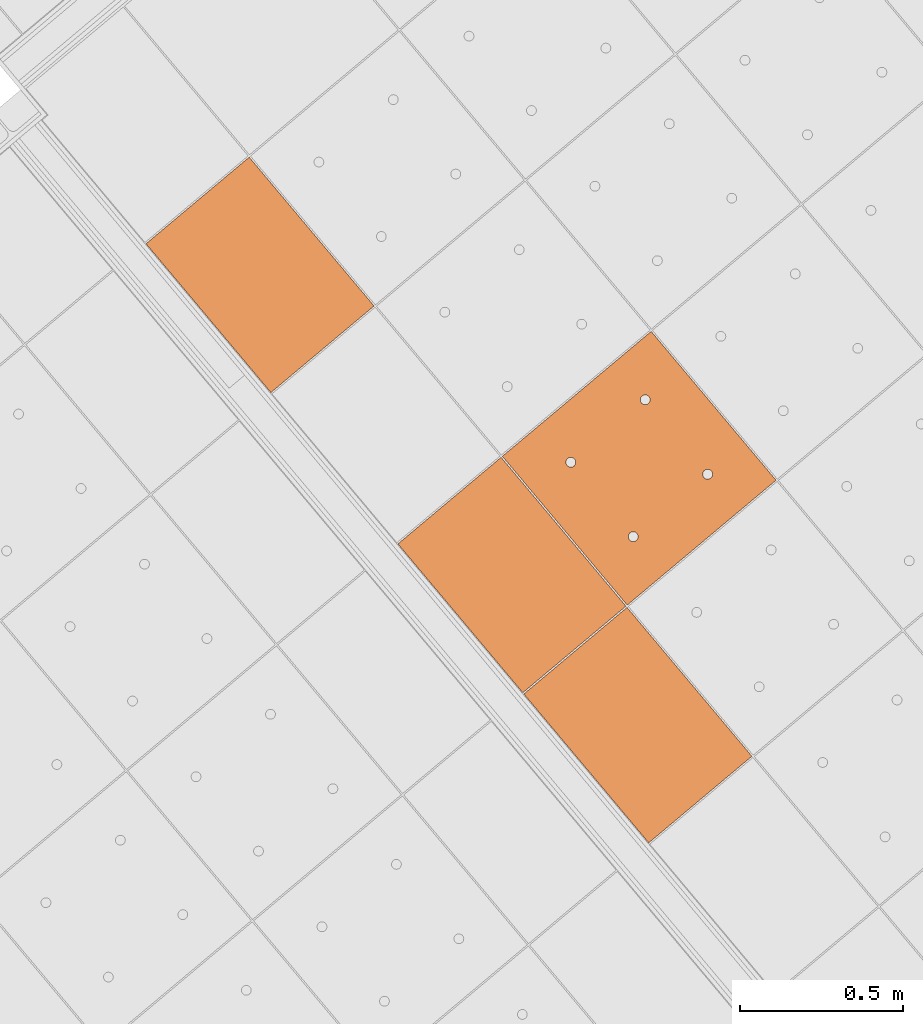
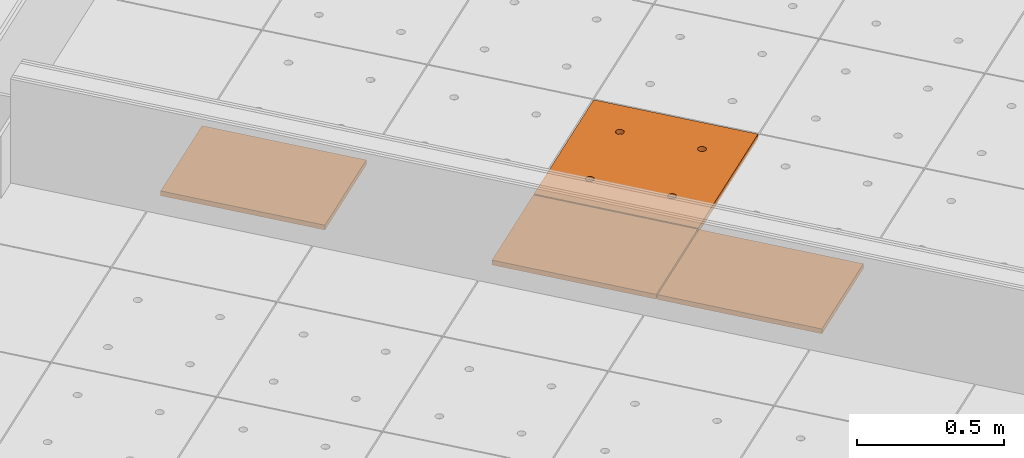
# One storey, part 147 of 338: 4 proxies, 1 element without a shape of its own.
"""IFC2X3 building model written with IfcOpenShell, lengths in millimetres."""

import ifcopenshell
import ifcopenshell.guid

model = None  # the IFC model being written
_history = None  # IfcOwnerHistory: only IFC2X3 demands one
_inside = {}  # id of a spatial element -> (the spatial element, [elements in it])
_under = {}  # id of a project, library or spatial element -> (it, [spatial elements below it])
_declared = {}  # id of a project -> (the project, [libraries it declares])
_typed = {}  # id of a type object -> (the type object, [elements of that type])
_made_of = {}  # id of a material, layer set ... -> (it, [elements and type objects made of it])


def new_model(schema):
    """Start an empty IFC model of exactly this schema.

    Asked for "IFC4X3", IfcOpenShell would pick the latest addendum, in which some entities
    have other attributes; the version numbers below select the first issue.
    IFC2X3 requires an IfcOwnerHistory on every rooted entity: one is made here for all.
    """
    global model, _history
    if schema == "IFC4X3":
        model = ifcopenshell.file(schema_version=(4, 3, 0, 0))
    else:
        model = ifcopenshell.file(schema=schema)
    _inside.clear()
    _under.clear()
    _declared.clear()
    _typed.clear()
    _made_of.clear()
    _history = None
    if model.schema == "IFC2X3":
        org = make("IfcOrganization", Name="unknown")
        user = make(
            "IfcPersonAndOrganization",
            ThePerson=make("IfcPerson", FamilyName="unknown"),
            TheOrganization=org,
        )
        app = make(
            "IfcApplication",
            ApplicationDeveloper=org,
            Version="unknown",
            ApplicationFullName="unknown",
            ApplicationIdentifier="unknown",
        )
        _history = make(
            "IfcOwnerHistory",
            OwningUser=user,
            OwningApplication=app,
            ChangeAction="ADDED",
            CreationDate=0,
        )
    return model


def make(cls, **values):
    """One entity of the class cls with the attributes given. An attribute that is None is left unset."""
    return model.create_entity(
        cls, **{name: value for name, value in values.items() if value is not None}
    )


def entity(cls, *values):
    """Any entity or typed value of the class cls, its attributes in the order of the schema. None: left unset."""
    e = model.create_entity(cls)
    for i, value in enumerate(values):
        if value is not None:
            e[i] = value
    return e


def rooted(cls, **values):
    """An entity with a GlobalId (a new one), such as an element, a storey or a relation."""
    return make(cls, GlobalId=ifcopenshell.guid.new(), OwnerHistory=_history, **values)


def si_unit(unit_type, name, prefix=None):
    """IfcSIUnit, for example si_unit("LENGTHUNIT", "METRE", prefix="MILLI")."""
    return make("IfcSIUnit", UnitType=unit_type, Prefix=prefix, Name=name)


def converted_unit(unit_type, name, factor, base, dimensions=None, offset=None):
    """IfcConversionBasedUnit, such as the inch: factor (a typed value) times the base unit."""
    return make(
        "IfcConversionBasedUnit"
        if offset is None
        else "IfcConversionBasedUnitWithOffset",
        ConversionOffset=offset,
        Dimensions=None
        if dimensions is None
        else entity("IfcDimensionalExponents", *dimensions),
        UnitType=unit_type,
        Name=name,
        ConversionFactor=make(
            "IfcMeasureWithUnit", ValueComponent=factor, UnitComponent=base
        ),
    )


def derived_unit(unit_type, elements):
    """IfcDerivedUnit: a product of units, each with its exponent."""
    return make(
        "IfcDerivedUnit",
        Elements=[
            make("IfcDerivedUnitElement", Unit=unit, Exponent=power)
            for unit, power in elements
        ],
        UnitType=unit_type,
    )


def money_unit(currency):
    """IfcMonetaryUnit."""
    return make("IfcMonetaryUnit", Currency=currency)


def assignment(units):
    """IfcUnitAssignment: the units of a project."""
    return None if units is None else make("IfcUnitAssignment", Units=units)


def point(xyz):
    """IfcCartesianPoint."""
    return None if xyz is None else make("IfcCartesianPoint", Coordinates=xyz)


def direction(xyz):
    """IfcDirection."""
    return None if xyz is None else make("IfcDirection", DirectionRatios=xyz)


def frame(location, z_axis=None, x_axis=None):
    """IfcAxis2Placement3D, a coordinate frame: its origin and axes. An axis left out is left unset."""
    return make(
        "IfcAxis2Placement3D",
        Location=point(location),
        Axis=direction(z_axis),
        RefDirection=direction(x_axis),
    )


def origin_with_axes():
    """The frame at (0, 0, 0) with the z axis (0, 0, 1) and the x axis (1, 0, 0) written out."""
    return frame((0.0, 0.0, 0.0), z_axis=(0.0, 0.0, 1.0), x_axis=(1.0, 0.0, 0.0))


def place(relative_to, where):
    """IfcLocalPlacement: puts the frame where relative to a parent placement (None: the world)."""
    return make(
        "IfcLocalPlacement", PlacementRelTo=relative_to, RelativePlacement=where
    )


def context(
    kind, dimensions, precision=None, world=None, true_north=None, identifier=None
):
    """IfcGeometricRepresentationContext, for example the 3D "Model" context."""
    return make(
        "IfcGeometricRepresentationContext",
        ContextIdentifier=identifier,
        ContextType=kind,
        CoordinateSpaceDimension=dimensions,
        Precision=precision,
        WorldCoordinateSystem=world,
        TrueNorth=true_north,
    )


def subcontext(parent, identifier, kind, view, scale=None):
    """IfcGeometricRepresentationSubContext, for example "Body" below "Model"."""
    return make(
        "IfcGeometricRepresentationSubContext",
        ContextIdentifier=identifier,
        ContextType=kind,
        ParentContext=parent,
        TargetScale=scale,
        TargetView=view,
    )


def project(units=None, contexts=None):
    """IfcProject with its units and contexts."""
    return rooted(
        "IfcProject",
        Name="project",
        RepresentationContexts=contexts,
        UnitsInContext=assignment(units),
    )


def spatial(cls, under=None, at=None, **own):
    """A site, building, storey or space (cls), placed at a placement, below another one or the project."""
    s = rooted(cls, ObjectPlacement=at, **own)
    if under is not None:
        _under.setdefault(under.id(), (under, []))[1].append(s)
    return s


def faces_of(points, faces, orient=None, outer=None):
    """IfcFace entities. A face is a list of loops; a loop is a list of indices into points, from 0.

    orient and outer hold one flag for each loop. By default every Orientation is true, the
    first loop of a face is its IfcFaceOuterBound and the others are IfcFaceBound.
    """
    made = []
    for i, loops in enumerate(faces):
        bounds = []
        for j, loop in enumerate(loops):
            is_outer = j == 0 if outer is None else outer[i][j]
            bounds.append(
                make(
                    "IfcFaceOuterBound" if is_outer else "IfcFaceBound",
                    Bound=make("IfcPolyLoop", Polygon=[points[k] for k in loop]),
                    Orientation=True if orient is None else orient[i][j],
                )
            )
        made.append(make("IfcFace", Bounds=bounds))
    return made


def faceted_brep(points, faces, orient=None, outer=None, voids=None):
    """IfcFacetedBrep: a solid bounded by flat faces; with voids (closed shells), ...WithVoids."""
    shared = [point(p) for p in points]
    hull = make("IfcClosedShell", CfsFaces=faces_of(shared, faces, orient, outer))
    if voids is None:
        return make("IfcFacetedBrep", Outer=hull)
    return make(
        "IfcFacetedBrepWithVoids",
        Outer=hull,
        Voids=[
            make(cls, CfsFaces=faces_of(shared, fs, o, b)) for cls, fs, o, b in voids
        ],
    )


def shape(context_of_items, identifier, shape_type, items):
    """IfcShapeRepresentation: the items that make up one representation, for example the "Body"."""
    return make(
        "IfcShapeRepresentation",
        ContextOfItems=context_of_items,
        RepresentationIdentifier=identifier,
        RepresentationType=shape_type,
        Items=items,
    )


def source(mapping_origin, context_of_items, identifier, shape_type, items):
    """IfcRepresentationMap: a shape defined once, which mapped items show again and again."""
    return make(
        "IfcRepresentationMap",
        MappingOrigin=mapping_origin,
        MappedRepresentation=shape(context_of_items, identifier, shape_type, items),
    )


def transform(
    local_origin,
    x_axis=None,
    y_axis=None,
    z_axis=None,
    scale=None,
    scale2=None,
    scale3=None,
    uniform=True,
):
    """IfcCartesianTransformationOperator3D, or its non-uniform kind. x_axis, y_axis, z_axis: its Axis1, 2, 3."""
    if uniform:
        return make(
            "IfcCartesianTransformationOperator3D",
            Axis1=direction(x_axis),
            Axis2=direction(y_axis),
            LocalOrigin=point(local_origin),
            Scale=scale,
            Axis3=direction(z_axis),
        )
    return make(
        "IfcCartesianTransformationOperator3DnonUniform",
        Axis1=direction(x_axis),
        Axis2=direction(y_axis),
        LocalOrigin=point(local_origin),
        Scale=scale,
        Axis3=direction(z_axis),
        Scale2=scale2,
        Scale3=scale3,
    )


def mapped(mapping_source, mapping_target):
    """IfcMappedItem: shows the shape of a source again, moved by a transform."""
    return make(
        "IfcMappedItem", MappingSource=mapping_source, MappingTarget=mapping_target
    )


def material(Name=None, Category=None):
    """IfcMaterial."""
    return make("IfcMaterial", Name=Name, Category=Category)


def made_of(thing, what):
    """Note that an element or type object is made of a material, layer set ...; save() writes the relation."""
    if what is not None:
        _made_of.setdefault(what.id(), (what, []))[1].append(thing)
    return thing


def type_object(cls, material=None, **own):
    """A type object (cls), such as IfcWallType, which elements share."""
    return made_of(rooted(cls, **own), material)


def type_shapes(of_type, sources):
    """Give a type object the sources (RepresentationMaps) that its elements show as mapped items."""
    of_type.RepresentationMaps = sources


def element(
    cls,
    number,
    at=None,
    inside=None,
    cuts=None,
    type_object=None,
    material=None,
    context=None,
    identifier="Body",
    shape_type=None,
    held_by="IfcProductDefinitionShape",
    body=None,
    shapes=None,
    **own,
):
    """One element of the class cls, such as IfcWall. Its Tag is "e" and its number.

    at: its placement. inside: the storey or other place that contains it. cuts: it is an
    opening in that element (IfcRelVoidsElement). A single representation is given by context,
    identifier, shape_type and body (its items); several are given by shapes. held_by: the class
    of the entity that holds the representations. save() writes the other relations.
    """
    e = rooted(cls, Tag="e%d" % number, ObjectPlacement=at, **own)
    if body is not None:
        shapes = [shape(context, identifier, shape_type, body)]
    if shapes is not None:
        e.Representation = make(held_by, Representations=shapes)
    if inside is not None:
        _inside.setdefault(inside.id(), (inside, []))[1].append(e)
    if cuts is not None:
        rooted(
            "IfcRelVoidsElement", RelatingBuildingElement=cuts, RelatedOpeningElement=e
        )
    if type_object is not None:
        _typed.setdefault(type_object.id(), (type_object, []))[1].append(e)
    return made_of(e, material)


def aggregate(whole, parts):
    """IfcRelAggregates: a whole, such as a stair, and the parts it consists of."""
    return rooted("IfcRelAggregates", RelatingObject=whole, RelatedObjects=parts)


def save(model, path):
    """Write the relations noted so far, then the file.

    IfcRelAggregates (storeys below a building ...), IfcRelContainedInSpatialStructure (elements
    in a storey), IfcRelDefinesByType, IfcRelAssociatesMaterial and IfcRelDeclares: one each for
    every whole, place, type object, material and project.
    """
    for whole, parts in _under.values():
        aggregate(whole, parts)
    for where, things in _inside.values():
        rooted(
            "IfcRelContainedInSpatialStructure",
            RelatedElements=things,
            RelatingStructure=where,
        )
    for kind, things in _typed.values():
        rooted("IfcRelDefinesByType", RelatedObjects=things, RelatingType=kind)
    for what, things in _made_of.values():
        rooted("IfcRelAssociatesMaterial", RelatedObjects=things, RelatingMaterial=what)
    for by, libraries in _declared.values():
        rooted("IfcRelDeclares", RelatingContext=by, RelatedDefinitions=libraries)
    model.write(path)


model = new_model("IFC2X3")

# Units and contexts
model_context = context("Model", 3, precision=0.01, world=origin_with_axes(), true_north=direction((0.0, 1.0)))
plan_context = context("Plan", 3, precision=0.01, world=origin_with_axes(), true_north=direction((0.0, 1.0)))
body_context = subcontext(model_context, "Body", "Model", "MODEL_VIEW")
ifc_project = project(units=[si_unit("LENGTHUNIT", "METRE", prefix="MILLI"), si_unit("AREAUNIT", "SQUARE_METRE"), si_unit("VOLUMEUNIT", "CUBIC_METRE"), converted_unit("PLANEANGLEUNIT", "DEGREE", entity("IfcPlaneAngleMeasure", 0.0174532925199), si_unit("PLANEANGLEUNIT", "RADIAN"), dimensions=[0, 0, 0, 0, 0, 0, 0]), money_unit("EUR"), converted_unit("TIMEUNIT", "Year", entity("IfcTimeMeasure", 31556926.0), si_unit("TIMEUNIT", "SECOND"), dimensions=[0, 0, 1, 0, 0, 0, 0]), si_unit("MASSUNIT", "GRAM", prefix="KILO"), si_unit("THERMODYNAMICTEMPERATUREUNIT", "DEGREE_CELSIUS"), si_unit("LUMINOUSINTENSITYUNIT", "LUMEN"), si_unit("ENERGYUNIT", "JOULE", prefix="MEGA"), derived_unit("THERMALCONDUCTANCEUNIT", [(si_unit("POWERUNIT", "WATT"), 1), (si_unit("LENGTHUNIT", "METRE"), -1), (si_unit("THERMODYNAMICTEMPERATUREUNIT", "KELVIN"), -1)]), derived_unit("SPECIFICHEATCAPACITYUNIT", [(si_unit("ENERGYUNIT", "JOULE"), 1), (si_unit("MASSUNIT", "GRAM", prefix="KILO"), -1), (si_unit("THERMODYNAMICTEMPERATUREUNIT", "KELVIN"), -1)]), derived_unit("MASSDENSITYUNIT", [(si_unit("MASSUNIT", "GRAM", prefix="KILO"), 1), (si_unit("VOLUMEUNIT", "CUBIC_METRE"), -1)])], contexts=[model_context, plan_context])

# Site, building, storey
site_placement = place(None, origin_with_axes())
site = spatial("IfcSite", under=ifc_project, at=site_placement, Name="Fortuinstraat Woensdrecht", CompositionType="ELEMENT")
building_placement = place(site_placement, origin_with_axes())
building = spatial("IfcBuilding", under=site, at=building_placement, Name="IKC Fortuna", CompositionType="ELEMENT")
storey_placement = place(building_placement, origin_with_axes())
storey = spatial("IfcBuildingStorey", under=building, at=storey_placement, Name="00 begane grond", CompositionType="ELEMENT", Elevation=0.0)

# Covering, proxies
covering_type = type_object("IfcCoveringType", Name="Curtain Wall Type", PredefinedType="CEILING")
covering_placement = place(storey_placement, frame((19785.7448517, -11392.5753808, 4660.0), z_axis=(0.0, 0.0, 1.0), x_axis=(1.0, 0.0, 0.0)))
covering = element("IfcCovering", 1, at=covering_placement, inside=storey, type_object=covering_type, Name="45_Plafondafwerking_P01", PredefinedType="CEILING")
ifc_material = material(Name="Gipsplaat")
building_element_proxy_type_1 = type_object("IfcBuildingElementProxyType", Name="Main Panel 600 x 600 x 20", PredefinedType="NOTDEFINED")
shared_shape_1 = source(origin_with_axes(), body_context, "Body", "Brep", [
    faceted_brep([(2.49999999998, 2.49999999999, -10.0), (300.0, 2.49999999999, -10.0), (300.0, 2.49999999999, 10.0), (2.49999999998, 2.49999999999, 10.0), (2.49999999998, 300.0, -10.0), (2.49999999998, 597.5, -10.0), (300.0, 597.5, -10.0), (597.5, 597.5, -10.0), (597.5, 300.0, -10.0), (597.5, 2.49999999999, -10.0), (166.25, 450.06232995, -10.0), (165.79423259, 452.64711538, -10.0), (164.896546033, 455.11348892, -10.0), (163.58421608, 457.38651108, -10.0), (161.897117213, 459.39711721, -10.0), (159.886511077, 461.08421608, -10.0), (157.613488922, 462.39654603, -10.0), (155.147115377, 463.29423259, -10.0), (152.562329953, 463.75, -10.0), (149.937670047, 463.75, -10.0), (147.352884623, 463.29423259, -10.0), (144.886511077, 462.39654603, -10.0), (142.613488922, 461.08421608, -10.0), (140.602882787, 459.39711721, -10.0), (138.91578392, 457.38651108, -10.0), (137.603453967, 455.11348892, -10.0), (136.705767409, 452.64711538, -10.0), (136.25, 450.06232995, -10.0), (136.25, 448.75, -10.0), (136.25, 447.43767005, -10.0), (136.705767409, 444.85288462, -10.0), (137.603453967, 442.38651108, -10.0), (138.91578392, 440.11348892, -10.0), (140.602882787, 438.10288279, -10.0), (142.613488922, 436.41578392, -10.0), (144.886511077, 435.10345397, -10.0), (147.352884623, 434.20576741, -10.0), (149.937670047, 433.75, -10.0), (152.562329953, 433.75, -10.0), (155.147115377, 434.20576741, -10.0), (157.613488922, 435.10345397, -10.0), (159.886511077, 436.41578392, -10.0), (161.897117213, 438.10288279, -10.0), (163.58421608, 440.11348892, -10.0), (164.896546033, 442.38651108, -10.0), (165.79423259, 444.85288462, -10.0), (166.25, 447.43767005, -10.0), (463.75, 450.06232995, -10.0), (463.29423259, 452.64711538, -10.0), (462.396546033, 455.11348892, -10.0), (461.08421608, 457.38651108, -10.0), (459.397117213, 459.39711721, -10.0), (457.386511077, 461.08421608, -10.0), (455.113488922, 462.39654603, -10.0), (452.647115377, 463.29423259, -10.0), (450.062329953, 463.75, -10.0), (447.437670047, 463.75, -10.0), (444.852884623, 463.29423259, -10.0), (442.386511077, 462.39654603, -10.0), (440.113488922, 461.08421608, -10.0), (438.102882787, 459.39711721, -10.0), (436.41578392, 457.38651108, -10.0), (435.103453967, 455.11348892, -10.0), (434.205767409, 452.64711538, -10.0), (433.75, 450.06232995, -10.0), (433.75, 448.75, -10.0), (433.75, 447.43767005, -10.0), (434.205767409, 444.85288462, -10.0), (435.103453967, 442.38651108, -10.0), (436.41578392, 440.11348892, -10.0), (438.102882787, 438.10288279, -10.0), (440.113488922, 436.41578392, -10.0), (442.386511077, 435.10345397, -10.0), (444.852884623, 434.20576741, -10.0), (447.437670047, 433.75, -10.0), (450.062329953, 433.75, -10.0), (452.647115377, 434.20576741, -10.0), (455.113488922, 435.10345397, -10.0), (457.386511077, 436.41578392, -10.0), (459.397117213, 438.10288279, -10.0), (461.08421608, 440.11348892, -10.0), (462.396546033, 442.38651108, -10.0), (463.29423259, 444.85288462, -10.0), (463.75, 447.43767005, -10.0), (463.75, 152.56232995, -10.0), (463.29423259, 155.14711538, -10.0), (462.396546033, 157.61348892, -10.0), (461.08421608, 159.88651108, -10.0), (459.397117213, 161.89711721, -10.0), (457.386511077, 163.58421608, -10.0), (455.113488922, 164.89654603, -10.0), (452.647115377, 165.79423259, -10.0), (450.062329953, 166.25, -10.0), (447.437670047, 166.25, -10.0), (444.852884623, 165.79423259, -10.0), (442.386511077, 164.89654603, -10.0), (440.113488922, 163.58421608, -10.0), (438.102882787, 161.89711721, -10.0), (436.41578392, 159.88651108, -10.0), (435.103453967, 157.61348892, -10.0), (434.205767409, 155.14711538, -10.0), (433.75, 152.56232995, -10.0), (433.75, 151.25, -10.0), (433.75, 149.93767005, -10.0), (434.205767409, 147.35288462, -10.0), (435.103453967, 144.88651108, -10.0), (436.41578392, 142.61348892, -10.0), (438.102882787, 140.60288279, -10.0), (440.113488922, 138.91578392, -10.0), (442.386511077, 137.60345397, -10.0), (444.852884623, 136.70576741, -10.0), (447.437670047, 136.25, -10.0), (450.062329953, 136.25, -10.0), (452.647115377, 136.70576741, -10.0), (455.113488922, 137.60345397, -10.0), (457.386511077, 138.91578392, -10.0), (459.397117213, 140.60288279, -10.0), (461.08421608, 142.61348892, -10.0), (462.396546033, 144.88651108, -10.0), (463.29423259, 147.35288462, -10.0), (463.75, 149.93767005, -10.0), (166.25, 152.56232995, -10.0), (165.79423259, 155.14711538, -10.0), (164.896546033, 157.61348892, -10.0), (163.58421608, 159.88651108, -10.0), (161.897117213, 161.89711721, -10.0), (159.886511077, 163.58421608, -10.0), (157.613488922, 164.89654603, -10.0), (155.147115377, 165.79423259, -10.0), (152.562329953, 166.25, -10.0), (149.937670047, 166.25, -10.0), (147.352884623, 165.79423259, -10.0), (144.886511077, 164.89654603, -10.0), (142.613488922, 163.58421608, -10.0), (140.602882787, 161.89711721, -10.0), (138.91578392, 159.88651108, -10.0), (137.603453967, 157.61348892, -10.0), (136.705767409, 155.14711538, -10.0), (136.25, 152.56232995, -10.0), (136.25, 151.25, -10.0), (136.25, 149.93767005, -10.0), (136.705767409, 147.35288462, -10.0), (137.603453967, 144.88651108, -10.0), (138.91578392, 142.61348892, -10.0), (140.602882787, 140.60288279, -10.0), (142.613488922, 138.91578392, -10.0), (144.886511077, 137.60345397, -10.0), (147.352884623, 136.70576741, -10.0), (149.937670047, 136.25, -10.0), (152.562329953, 136.25, -10.0), (155.147115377, 136.70576741, -10.0), (157.613488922, 137.60345397, -10.0), (159.886511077, 138.91578392, -10.0), (161.897117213, 140.60288279, -10.0), (163.58421608, 142.61348892, -10.0), (164.896546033, 144.88651108, -10.0), (165.79423259, 147.35288462, -10.0), (166.25, 149.93767005, -10.0), (597.5, 2.49999999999, 10.0), (597.5, 300.0, 10.0), (597.5, 597.5, 10.0), (300.0, 597.5, 10.0), (2.49999999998, 597.5, 10.0), (2.49999999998, 300.0, 10.0), (166.25, 450.06232995, 10.0), (166.25, 447.43767005, 10.0), (165.79423259, 444.85288462, 10.0), (164.896546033, 442.38651108, 10.0), (163.58421608, 440.11348892, 10.0), (161.897117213, 438.10288279, 10.0), (159.886511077, 436.41578392, 10.0), (157.613488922, 435.10345397, 10.0), (155.147115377, 434.20576741, 10.0), (152.562329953, 433.75, 10.0), (149.937670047, 433.75, 10.0), (147.352884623, 434.20576741, 10.0), (144.886511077, 435.10345397, 10.0), (142.613488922, 436.41578392, 10.0), (140.602882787, 438.10288279, 10.0), (138.91578392, 440.11348892, 10.0), (137.603453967, 442.38651108, 10.0), (136.705767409, 444.85288462, 10.0), (136.25, 447.43767005, 10.0), (136.25, 448.75, 10.0), (136.25, 450.06232995, 10.0), (136.705767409, 452.64711538, 10.0), (137.603453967, 455.11348892, 10.0), (138.91578392, 457.38651108, 10.0), (140.602882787, 459.39711721, 10.0), (142.613488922, 461.08421608, 10.0), (144.886511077, 462.39654603, 10.0), (147.352884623, 463.29423259, 10.0), (149.937670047, 463.75, 10.0), (152.562329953, 463.75, 10.0), (155.147115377, 463.29423259, 10.0), (157.613488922, 462.39654603, 10.0), (159.886511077, 461.08421608, 10.0), (161.897117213, 459.39711721, 10.0), (163.58421608, 457.38651108, 10.0), (164.896546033, 455.11348892, 10.0), (165.79423259, 452.64711538, 10.0), (463.75, 450.06232995, 10.0), (463.75, 447.43767005, 10.0), (463.29423259, 444.85288462, 10.0), (462.396546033, 442.38651108, 10.0), (461.08421608, 440.11348892, 10.0), (459.397117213, 438.10288279, 10.0), (457.386511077, 436.41578392, 10.0), (455.113488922, 435.10345397, 10.0), (452.647115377, 434.20576741, 10.0), (450.062329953, 433.75, 10.0), (447.437670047, 433.75, 10.0), (444.852884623, 434.20576741, 10.0), (442.386511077, 435.10345397, 10.0), (440.113488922, 436.41578392, 10.0), (438.102882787, 438.10288279, 10.0), (436.41578392, 440.11348892, 10.0), (435.103453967, 442.38651108, 10.0), (434.205767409, 444.85288462, 10.0), (433.75, 447.43767005, 10.0), (433.75, 448.75, 10.0), (433.75, 450.06232995, 10.0), (434.205767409, 452.64711538, 10.0), (435.103453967, 455.11348892, 10.0), (436.41578392, 457.38651108, 10.0), (438.102882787, 459.39711721, 10.0), (440.113488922, 461.08421608, 10.0), (442.386511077, 462.39654603, 10.0), (444.852884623, 463.29423259, 10.0), (447.437670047, 463.75, 10.0), (450.062329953, 463.75, 10.0), (452.647115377, 463.29423259, 10.0), (455.113488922, 462.39654603, 10.0), (457.386511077, 461.08421608, 10.0), (459.397117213, 459.39711721, 10.0), (461.08421608, 457.38651108, 10.0), (462.396546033, 455.11348892, 10.0), (463.29423259, 452.64711538, 10.0), (463.75, 152.56232995, 10.0), (463.75, 149.93767005, 10.0), (463.29423259, 147.35288462, 10.0), (462.396546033, 144.88651108, 10.0), (461.08421608, 142.61348892, 10.0), (459.397117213, 140.60288279, 10.0), (457.386511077, 138.91578392, 10.0), (455.113488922, 137.60345397, 10.0), (452.647115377, 136.70576741, 10.0), (450.062329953, 136.25, 10.0), (447.437670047, 136.25, 10.0), (444.852884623, 136.70576741, 10.0), (442.386511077, 137.60345397, 10.0), (440.113488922, 138.91578392, 10.0), (438.102882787, 140.60288279, 10.0), (436.41578392, 142.61348892, 10.0), (435.103453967, 144.88651108, 10.0), (434.205767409, 147.35288462, 10.0), (433.75, 149.93767005, 10.0), (433.75, 151.25, 10.0), (433.75, 152.56232995, 10.0), (434.205767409, 155.14711538, 10.0), (435.103453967, 157.61348892, 10.0), (436.41578392, 159.88651108, 10.0), (438.102882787, 161.89711721, 10.0), (440.113488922, 163.58421608, 10.0), (442.386511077, 164.89654603, 10.0), (444.852884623, 165.79423259, 10.0), (447.437670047, 166.25, 10.0), (450.062329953, 166.25, 10.0), (452.647115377, 165.79423259, 10.0), (455.113488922, 164.89654603, 10.0), (457.386511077, 163.58421608, 10.0), (459.397117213, 161.89711721, 10.0), (461.08421608, 159.88651108, 10.0), (462.396546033, 157.61348892, 10.0), (463.29423259, 155.14711538, 10.0), (166.25, 152.56232995, 10.0), (166.25, 149.93767005, 10.0), (165.79423259, 147.35288462, 10.0), (164.896546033, 144.88651108, 10.0), (163.58421608, 142.61348892, 10.0), (161.897117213, 140.60288279, 10.0), (159.886511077, 138.91578392, 10.0), (157.613488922, 137.60345397, 10.0), (155.147115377, 136.70576741, 10.0), (152.562329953, 136.25, 10.0), (149.937670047, 136.25, 10.0), (147.352884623, 136.70576741, 10.0), (144.886511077, 137.60345397, 10.0), (142.613488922, 138.91578392, 10.0), (140.602882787, 140.60288279, 10.0), (138.91578392, 142.61348892, 10.0), (137.603453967, 144.88651108, 10.0), (136.705767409, 147.35288462, 10.0), (136.25, 149.93767005, 10.0), (136.25, 151.25, 10.0), (136.25, 152.56232995, 10.0), (136.705767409, 155.14711538, 10.0), (137.603453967, 157.61348892, 10.0), (138.91578392, 159.88651108, 10.0), (140.602882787, 161.89711721, 10.0), (142.613488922, 163.58421608, 10.0), (144.886511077, 164.89654603, 10.0), (147.352884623, 165.79423259, 10.0), (149.937670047, 166.25, 10.0), (152.562329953, 166.25, 10.0), (155.147115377, 165.79423259, 10.0), (157.613488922, 164.89654603, 10.0), (159.886511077, 163.58421608, 10.0), (161.897117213, 161.89711721, 10.0), (163.58421608, 159.88651108, 10.0), (164.896546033, 157.61348892, 10.0), (165.79423259, 155.14711538, 10.0)], [[[0, 1, 2, 3]], [[0, 4, 5, 6, 7, 8, 9, 1], [10, 11, 12, 13, 14, 15, 16, 17, 18, 19, 20, 21, 22, 23, 24, 25, 26, 27, 28, 29, 30, 31, 32, 33, 34, 35, 36, 37, 38, 39, 40, 41, 42, 43, 44, 45, 46], [47, 48, 49, 50, 51, 52, 53, 54, 55, 56, 57, 58, 59, 60, 61, 62, 63, 64, 65, 66, 67, 68, 69, 70, 71, 72, 73, 74, 75, 76, 77, 78, 79, 80, 81, 82, 83], [84, 85, 86, 87, 88, 89, 90, 91, 92, 93, 94, 95, 96, 97, 98, 99, 100, 101, 102, 103, 104, 105, 106, 107, 108, 109, 110, 111, 112, 113, 114, 115, 116, 117, 118, 119, 120], [121, 122, 123, 124, 125, 126, 127, 128, 129, 130, 131, 132, 133, 134, 135, 136, 137, 138, 139, 140, 141, 142, 143, 144, 145, 146, 147, 148, 149, 150, 151, 152, 153, 154, 155, 156, 157]], [[1, 9, 158, 2]], [[3, 2, 158, 159, 160, 161, 162, 163], [164, 165, 166, 167, 168, 169, 170, 171, 172, 173, 174, 175, 176, 177, 178, 179, 180, 181, 182, 183, 184, 185, 186, 187, 188, 189, 190, 191, 192, 193, 194, 195, 196, 197, 198, 199, 200], [201, 202, 203, 204, 205, 206, 207, 208, 209, 210, 211, 212, 213, 214, 215, 216, 217, 218, 219, 220, 221, 222, 223, 224, 225, 226, 227, 228, 229, 230, 231, 232, 233, 234, 235, 236, 237], [238, 239, 240, 241, 242, 243, 244, 245, 246, 247, 248, 249, 250, 251, 252, 253, 254, 255, 256, 257, 258, 259, 260, 261, 262, 263, 264, 265, 266, 267, 268, 269, 270, 271, 272, 273, 274], [275, 276, 277, 278, 279, 280, 281, 282, 283, 284, 285, 286, 287, 288, 289, 290, 291, 292, 293, 294, 295, 296, 297, 298, 299, 300, 301, 302, 303, 304, 305, 306, 307, 308, 309, 310, 311]], [[4, 0, 3, 163]], [[5, 4, 163, 162]], [[6, 5, 162, 161]], [[7, 6, 161, 160]], [[8, 7, 160, 159]], [[9, 8, 159, 158]], [[11, 10, 164, 200]], [[12, 11, 200, 199]], [[13, 12, 199, 198]], [[14, 13, 198, 197]], [[15, 14, 197, 196]], [[16, 15, 196, 195]], [[17, 16, 195, 194]], [[18, 17, 194, 193]], [[19, 18, 193, 192]], [[20, 19, 192, 191]], [[21, 20, 191, 190]], [[22, 21, 190, 189]], [[23, 22, 189, 188]], [[24, 23, 188, 187]], [[25, 24, 187, 186]], [[26, 25, 186, 185]], [[27, 26, 185, 184]], [[28, 27, 184, 183]], [[29, 28, 183, 182]], [[30, 29, 182, 181]], [[31, 30, 181, 180]], [[32, 31, 180, 179]], [[33, 32, 179, 178]], [[34, 33, 178, 177]], [[35, 34, 177, 176]], [[36, 35, 176, 175]], [[37, 36, 175, 174]], [[38, 37, 174, 173]], [[39, 38, 173, 172]], [[40, 39, 172, 171]], [[41, 40, 171, 170]], [[42, 41, 170, 169]], [[43, 42, 169, 168]], [[44, 43, 168, 167]], [[45, 44, 167, 166]], [[46, 45, 166, 165]], [[10, 46, 165, 164]], [[48, 47, 201, 237]], [[49, 48, 237, 236]], [[50, 49, 236, 235]], [[51, 50, 235, 234]], [[52, 51, 234, 233]], [[53, 52, 233, 232]], [[54, 53, 232, 231]], [[55, 54, 231, 230]], [[56, 55, 230, 229]], [[57, 56, 229, 228]], [[58, 57, 228, 227]], [[59, 58, 227, 226]], [[60, 59, 226, 225]], [[61, 60, 225, 224]], [[62, 61, 224, 223]], [[63, 62, 223, 222]], [[64, 63, 222, 221]], [[65, 64, 221, 220]], [[66, 65, 220, 219]], [[67, 66, 219, 218]], [[68, 67, 218, 217]], [[69, 68, 217, 216]], [[70, 69, 216, 215]], [[71, 70, 215, 214]], [[72, 71, 214, 213]], [[73, 72, 213, 212]], [[74, 73, 212, 211]], [[75, 74, 211, 210]], [[76, 75, 210, 209]], [[77, 76, 209, 208]], [[78, 77, 208, 207]], [[79, 78, 207, 206]], [[80, 79, 206, 205]], [[81, 80, 205, 204]], [[82, 81, 204, 203]], [[83, 82, 203, 202]], [[47, 83, 202, 201]], [[85, 84, 238, 274]], [[86, 85, 274, 273]], [[87, 86, 273, 272]], [[88, 87, 272, 271]], [[89, 88, 271, 270]], [[90, 89, 270, 269]], [[91, 90, 269, 268]], [[92, 91, 268, 267]], [[93, 92, 267, 266]], [[94, 93, 266, 265]], [[95, 94, 265, 264]], [[96, 95, 264, 263]], [[97, 96, 263, 262]], [[98, 97, 262, 261]], [[99, 98, 261, 260]], [[100, 99, 260, 259]], [[101, 100, 259, 258]], [[102, 101, 258, 257]], [[103, 102, 257, 256]], [[104, 103, 256, 255]], [[105, 104, 255, 254]], [[106, 105, 254, 253]], [[107, 106, 253, 252]], [[108, 107, 252, 251]], [[109, 108, 251, 250]], [[110, 109, 250, 249]], [[111, 110, 249, 248]], [[112, 111, 248, 247]], [[113, 112, 247, 246]], [[114, 113, 246, 245]], [[115, 114, 245, 244]], [[116, 115, 244, 243]], [[117, 116, 243, 242]], [[118, 117, 242, 241]], [[119, 118, 241, 240]], [[120, 119, 240, 239]], [[84, 120, 239, 238]], [[122, 121, 275, 311]], [[123, 122, 311, 310]], [[124, 123, 310, 309]], [[125, 124, 309, 308]], [[126, 125, 308, 307]], [[127, 126, 307, 306]], [[128, 127, 306, 305]], [[129, 128, 305, 304]], [[130, 129, 304, 303]], [[131, 130, 303, 302]], [[132, 131, 302, 301]], [[133, 132, 301, 300]], [[134, 133, 300, 299]], [[135, 134, 299, 298]], [[136, 135, 298, 297]], [[137, 136, 297, 296]], [[138, 137, 296, 295]], [[139, 138, 295, 294]], [[140, 139, 294, 293]], [[141, 140, 293, 292]], [[142, 141, 292, 291]], [[143, 142, 291, 290]], [[144, 143, 290, 289]], [[145, 144, 289, 288]], [[146, 145, 288, 287]], [[147, 146, 287, 286]], [[148, 147, 286, 285]], [[149, 148, 285, 284]], [[150, 149, 284, 283]], [[151, 150, 283, 282]], [[152, 151, 282, 281]], [[153, 152, 281, 280]], [[154, 153, 280, 279]], [[155, 154, 279, 278]], [[156, 155, 278, 277]], [[157, 156, 277, 276]], [[121, 157, 276, 275]]]),
])
type_shapes(building_element_proxy_type_1, [shared_shape_1])
proxy_1_placement = place(covering_placement, frame((-2675.57069407, 3980.0927451, 2.20268248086e-10), z_axis=(0.0, 0.0, 1.0), x_axis=(1.0, 0.0, 0.0)))
proxy_1 = element("IfcBuildingElementProxy", 2, at=proxy_1_placement, type_object=building_element_proxy_type_1, material=ifc_material, Name="__600x632 Rockfon Krios", context=body_context, shape_type="MappedRepresentation", body=[
    mapped(shared_shape_1, transform((36.9769427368, 422.649625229, 0.0), x_axis=(-0.766044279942, -0.642787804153, 0.0), y_axis=(0.642787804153, -0.766044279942, 0.0), z_axis=(0.0, 0.0, 1.0))),
])
building_element_proxy_type_2 = type_object("IfcBuildingElementProxyType", Name="417 x 600 x 20", PredefinedType="NOTDEFINED")
shared_shape_2 = source(origin_with_axes(), body_context, "Body", "Brep", [
    faceted_brep([(2.49999980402, 2.50000025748, -10.0), (414.998898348, 2.49998563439, -10.0), (414.998898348, 2.49998563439, 10.0), (2.49999980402, 2.50000025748, 10.0), (2.49999356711, 597.500003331, -10.0), (414.998907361, 597.499990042, -10.0), (414.998907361, 597.499990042, 10.0), (2.49999356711, 597.500003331, 10.0)], [[[0, 1, 2, 3]], [[0, 4, 5, 1]], [[1, 5, 6, 2]], [[3, 2, 6, 7]], [[4, 0, 3, 7]], [[5, 4, 7, 6]]]),
])
proxy_2_placement = place(covering_placement, frame((-3836.64066528, 4572.32793909, 2.3714363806e-10), z_axis=(0.0, 0.0, 1.0), x_axis=(1.0, 0.0, 0.0)))
proxy_2 = element("IfcBuildingElementProxy", 3, at=proxy_2_placement, type_object=building_element_proxy_type_2, material=ifc_material, Name="__600x606 Rockfon Krios", context=body_context, shape_type="MappedRepresentation", body=[
    mapped(shared_shape_2, transform((-32.9250190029, 363.994884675, 0.0), x_axis=(-0.766044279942, -0.642787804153, 0.0), y_axis=(0.642787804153, -0.766044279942, 0.0), z_axis=(0.0, 0.0, 1.0))),
])
proxy_3_placement = place(covering_placement, frame((-3065.2953003, 3653.07480316, 2.3714363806e-10), z_axis=(0.0, 0.0, 1.0), x_axis=(1.0, 0.0, 0.0)))
proxy_3 = element("IfcBuildingElementProxy", 4, at=proxy_3_placement, type_object=building_element_proxy_type_2, material=ifc_material, Name="__600x653 Rockfon Krios", context=body_context, shape_type="MappedRepresentation", body=[
    mapped(shared_shape_2, transform((-32.9250190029, 363.994884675, 0.0), x_axis=(-0.766044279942, -0.642787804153, 0.0), y_axis=(0.642787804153, -0.766044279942, 0.0), z_axis=(0.0, 0.0, 1.0))),
])
shared_shape_3 = source(origin_with_axes(), body_context, "Body", "Brep", [
    faceted_brep([(2.49998784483, 2.49998600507, -10.0), (414.998892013, 2.49999492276, -10.0), (414.998892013, 2.49999492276, 10.0), (2.49998784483, 2.49998600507, 10.0), (2.49999552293, 597.500005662, -10.0), (414.998894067, 597.499991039, -10.0), (414.998894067, 597.499991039, 10.0), (2.49999552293, 597.500005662, 10.0)], [[[0, 1, 2, 3]], [[0, 4, 5, 1]], [[1, 5, 6, 2]], [[3, 2, 6, 7]], [[4, 0, 3, 7]], [[5, 4, 7, 6]]]),
])
type_shapes(building_element_proxy_type_2, [shared_shape_2, shared_shape_3])
proxy_4_placement = place(covering_placement, frame((-2679.62261781, 3193.44823519, 2.3714363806e-10), z_axis=(0.0, 0.0, 1.0), x_axis=(1.0, 0.0, 0.0)))
proxy_4 = element("IfcBuildingElementProxy", 5, at=proxy_4_placement, type_object=building_element_proxy_type_2, material=ifc_material, Name="__600x659 Rockfon Krios", context=body_context, shape_type="MappedRepresentation", body=[
    mapped(shared_shape_3, transform((-32.9250190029, 363.994884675, 0.0), x_axis=(-0.766044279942, -0.642787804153, 0.0), y_axis=(0.642787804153, -0.766044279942, 0.0), z_axis=(0.0, 0.0, 1.0))),
])
aggregate(covering, [proxy_2, proxy_1, proxy_3, proxy_4])

save(model, "model.ifc")
